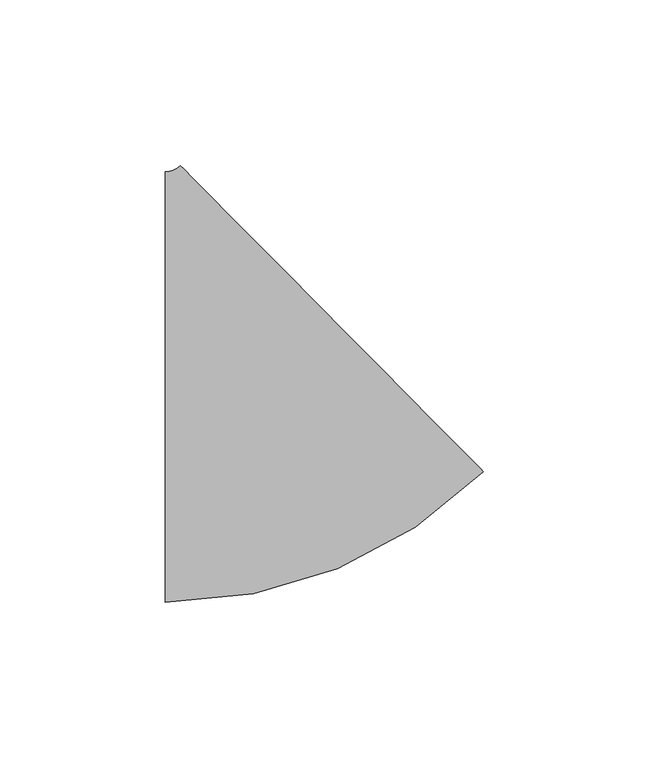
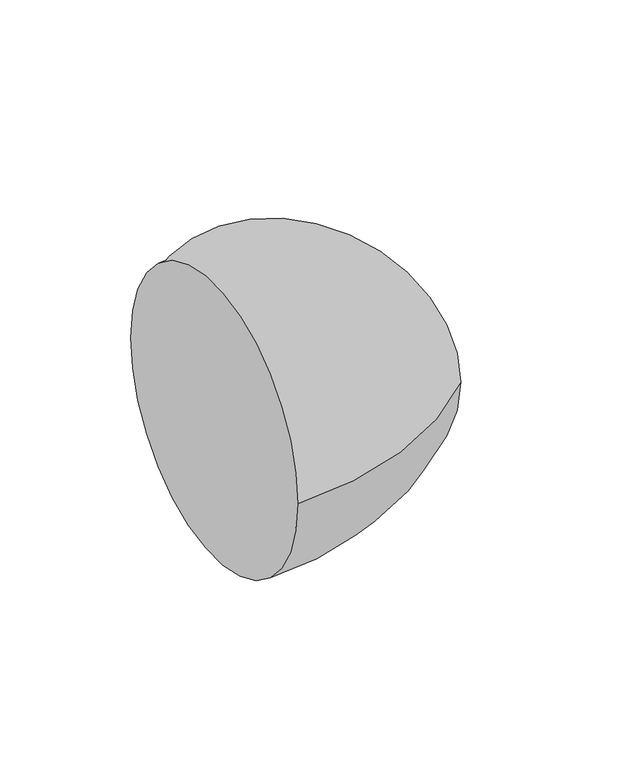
"""IFC4 building model written with IfcOpenShell, lengths in millimetres: pipe fitting geometry, M_Codo - Genérico : Estándar."""

from ifc_helpers import new_model, si_unit, point, frame, origin, place, context, project, spatial, circle_curve, ellipse_curve, trimmed, source, transform, mapped, element, save
from ifc_brep_helpers import plane_surface, revolved_surface, advanced_brep


def pipe_fitting_58cf89ae(model_context):
    return source(origin(), model_context, "Body", "AdvancedBrep", [
        advanced_brep(
        [(-29.3813827, -65.0875, 0.0), (-29.3813827, 65.0875, 0.0), (66.6725257, -25.5816852, 0.0), (-24.913759, 66.9249798, 0.0)],
        [
            (0, 1, circle_curve(frame((-29.3813827, 0.0, 0.0), z_axis=(-1.0, 0.0, 0.0), x_axis=(0.0, 1.0, 0.0)), 65.0875)),
            (1, 0, circle_curve(frame((-29.3813827, 0.0, 0.0), z_axis=(-1.0, 0.0, 0.0), x_axis=(0.0, 1.0, 0.0)), 65.0875)),
            (2, 3, circle_curve(frame((20.8793833, 20.6716473, 0.0), z_axis=(0.7106331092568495, 0.7035627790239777, 0.0), x_axis=(-0.7035627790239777, 0.7106331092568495, 0.0)), 65.0875)),
            (3, 2, circle_curve(frame((20.8793833, 20.6716473, 0.0), z_axis=(0.7106331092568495, 0.7035627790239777, 0.0), x_axis=(-0.7035627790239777, 0.7106331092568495, 0.0)), 65.0875)),
            (3, 1, circle_curve(frame((-29.3813827, 71.4375, 0.0), z_axis=(0.0, 0.0, -1.0), x_axis=(0.0, -1.0, 0.0)), 6.35)),
            (0, 2, circle_curve(frame((-29.3813827, 71.4375, 0.0), z_axis=(0.0, 0.0, 1.0), x_axis=(0.0, -1.0, 0.0)), 136.525)),
        ],
        [
            plane_surface(frame((-29.3813827, 0.0, 0.0), z_axis=(-1.0, 0.0, 0.0), x_axis=(0.0, 0.0, 1.0))),
            plane_surface(frame((20.8793833, 20.6716473, 0.0), z_axis=(0.7106331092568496, 0.7035627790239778, 0.0), x_axis=(0.0, 0.0, 1.0))),
            revolved_surface(trimmed(ellipse_curve(frame((-29.3813827, 0.0, 0.0), z_axis=(-1.0, 0.0, 0.0), x_axis=(0.0, 1.0, 0.0)), 65.0875, 65.0875), [point((-29.3813827, -65.0875, 0.0))], [point((-29.3813827, 65.0875, 0.0))], True, "CARTESIAN"), (-29.3813827, 71.4375, 0.0), (0.0, 0.0, 1.0)),
            revolved_surface(trimmed(ellipse_curve(frame((-29.3813827, 0.0, 0.0), z_axis=(-1.0, 0.0, 0.0), x_axis=(0.0, 1.0, 0.0)), 65.0875, 65.0875), [point((-29.3813827, 65.0875, 0.0))], [point((-29.3813827, -65.0875, 0.0))], True, "CARTESIAN"), (-29.3813827, 71.4375, 0.0), (0.0, 0.0, 1.0)),
        ],
        [
            (0, [[1, 2]]),
            (1, [[3, 4]]),
            (2, [[5, -1, 6, -4]]),
            (3, [[-6, -2, -5, -3]]),
        ],
    ),
    ])


if __name__ == "__main__":
    model = new_model("IFC4")
    model_context = context("Model", 3, world=origin())
    ifc_project = project(units=[si_unit("LENGTHUNIT", "METRE", prefix="MILLI")], contexts=[model_context])
    site = spatial("IfcSite", under=ifc_project)
    building = spatial("IfcBuilding", under=site)
    placement = place(None, origin())
    pipe_fitting_shape = pipe_fitting_58cf89ae(model_context)
    element("IfcPipeFitting", 1, ObjectType="M_Codo - Genérico : Estándar", at=placement, inside=building, context=model_context, shape_type="MappedRepresentation", body=[
        mapped(pipe_fitting_shape, transform((0.0, 0.0, 0.0), x_axis=(1.0, 0.0, 0.0), y_axis=(0.0, 1.0, 0.0), z_axis=(0.0, 0.0, 1.0))),
    ])
    save(model, "model.ifc")
